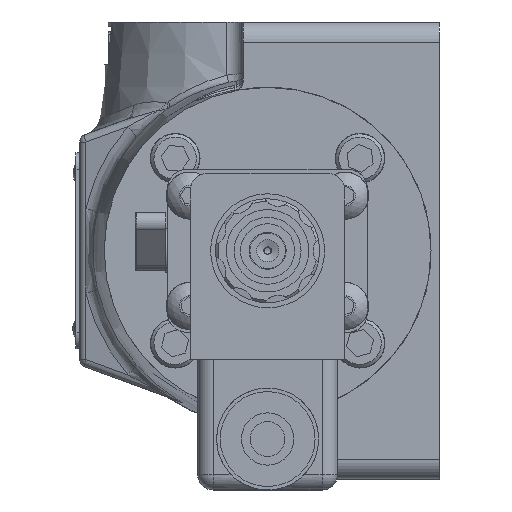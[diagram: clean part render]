
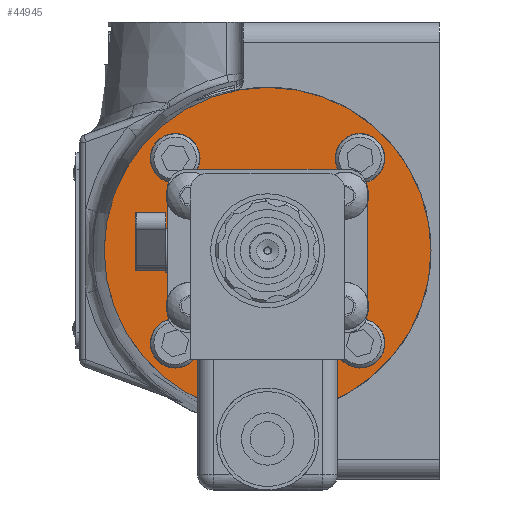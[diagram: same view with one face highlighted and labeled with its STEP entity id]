
A CAD part, left-side view. The second image highlights one B-rep face of the part: STEP entity #44945.
In plain terms, the highlighted planar face has unit normal (-1, 0, 0).
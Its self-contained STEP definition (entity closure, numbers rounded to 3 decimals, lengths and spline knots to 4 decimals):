
#1244=LINE('',#69975,#3724);
#1255=LINE('',#70006,#3735);
#1261=LINE('',#70024,#3741);
#1264=LINE('',#70040,#3744);
#3724=VECTOR('',#56136,2.35);
#3735=VECTOR('',#56159,2.7341);
#3741=VECTOR('',#56175,2.7341);
#3744=VECTOR('',#56196,2.35);
#7987=PLANE('',#49125);
#8821=FACE_BOUND('',#13885,.T.);
#10647=FACE_OUTER_BOUND('',#13884,.T.);
#13884=EDGE_LOOP('',(#34443));
#13885=EDGE_LOOP('',(#34444,#34445,#34446,#34447,#34448,#34449,#34450,#34451,
#34452,#34453,#34454,#34455));
#16396=CIRCLE('',#48237,0.4);
#16399=CIRCLE('',#48242,0.4);
#16401=CIRCLE('',#48246,0.4);
#16404=CIRCLE('',#48250,0.4);
#16784=CIRCLE('',#49064,3.175);
#16790=CIRCLE('',#49074,0.4826);
#16792=CIRCLE('',#49077,0.4826);
#16794=CIRCLE('',#49080,0.4826);
#16796=CIRCLE('',#49083,0.4826);
#19342=VERTEX_POINT('',#69971);
#19344=VERTEX_POINT('',#69974);
#19353=VERTEX_POINT('',#69993);
#19354=VERTEX_POINT('',#69995);
#19357=VERTEX_POINT('',#70003);
#19358=VERTEX_POINT('',#70005);
#19361=VERTEX_POINT('',#70013);
#19364=VERTEX_POINT('',#70021);
#19365=VERTEX_POINT('',#70023);
#19366=VERTEX_POINT('',#70028);
#19368=VERTEX_POINT('',#70034);
#19369=VERTEX_POINT('',#70036);
#19973=VERTEX_POINT('',#72370);
#24065=EDGE_CURVE('',#19344,#19342,#1244,.T.);
#24075=EDGE_CURVE('',#19353,#19354,#16396,.T.);
#24080=EDGE_CURVE('',#19358,#19357,#1255,.T.);
#24085=EDGE_CURVE('',#19361,#19342,#16399,.T.);
#24089=EDGE_CURVE('',#19365,#19364,#1261,.T.);
#24092=EDGE_CURVE('',#19344,#19366,#16401,.T.);
#24096=EDGE_CURVE('',#19368,#19369,#16404,.T.);
#24098=EDGE_CURVE('',#19368,#19354,#1264,.T.);
#25064=EDGE_CURVE('',#19973,#19973,#16784,.T.);
#25071=EDGE_CURVE('',#19361,#19365,#16790,.T.);
#25073=EDGE_CURVE('',#19357,#19366,#16792,.T.);
#25075=EDGE_CURVE('',#19353,#19358,#16794,.T.);
#25077=EDGE_CURVE('',#19364,#19369,#16796,.T.);
#34443=ORIENTED_EDGE('',*,*,#25064,.F.);
#34444=ORIENTED_EDGE('',*,*,#24092,.F.);
#34445=ORIENTED_EDGE('',*,*,#24065,.T.);
#34446=ORIENTED_EDGE('',*,*,#24085,.F.);
#34447=ORIENTED_EDGE('',*,*,#25071,.T.);
#34448=ORIENTED_EDGE('',*,*,#24089,.T.);
#34449=ORIENTED_EDGE('',*,*,#25077,.T.);
#34450=ORIENTED_EDGE('',*,*,#24096,.F.);
#34451=ORIENTED_EDGE('',*,*,#24098,.T.);
#34452=ORIENTED_EDGE('',*,*,#24075,.F.);
#34453=ORIENTED_EDGE('',*,*,#25075,.T.);
#34454=ORIENTED_EDGE('',*,*,#24080,.T.);
#34455=ORIENTED_EDGE('',*,*,#25073,.T.);
#44945=ADVANCED_FACE('',(#10647,#8821),#7987,.T.);
#48237=AXIS2_PLACEMENT_3D('',#69996,#56151,#56152);
#48242=AXIS2_PLACEMENT_3D('',#70015,#56168,#56169);
#48246=AXIS2_PLACEMENT_3D('',#70029,#56181,#56182);
#48250=AXIS2_PLACEMENT_3D('',#70037,#56190,#56191);
#49064=AXIS2_PLACEMENT_3D('',#72371,#58379,#58380);
#49074=AXIS2_PLACEMENT_3D('',#72387,#58400,#58401);
#49077=AXIS2_PLACEMENT_3D('',#72391,#58406,#58407);
#49080=AXIS2_PLACEMENT_3D('',#72395,#58412,#58413);
#49083=AXIS2_PLACEMENT_3D('',#72399,#58418,#58419);
#49125=AXIS2_PLACEMENT_3D('',#72695,#58509,#58510);
#56136=DIRECTION('',(0.,0.,1.));
#56151=DIRECTION('center_axis',(-1.,0.,0.));
#56152=DIRECTION('ref_axis',(0.,-0.707,-0.707));
#56159=DIRECTION('',(0.,1.,0.));
#56168=DIRECTION('center_axis',(-1.,0.,0.));
#56169=DIRECTION('ref_axis',(0.,0.707,0.707));
#56175=DIRECTION('',(0.,-1.,0.));
#56181=DIRECTION('center_axis',(-1.,0.,0.));
#56182=DIRECTION('ref_axis',(0.,0.707,-0.707));
#56190=DIRECTION('center_axis',(-1.,0.,0.));
#56191=DIRECTION('ref_axis',(0.,-0.707,0.707));
#56196=DIRECTION('',(0.,0.,-1.));
#58379=DIRECTION('center_axis',(1.,0.,0.));
#58380=DIRECTION('ref_axis',(0.,1.,0.));
#58400=DIRECTION('center_axis',(1.,0.,0.));
#58401=DIRECTION('ref_axis',(0.,-1.,0.));
#58406=DIRECTION('center_axis',(1.,0.,0.));
#58407=DIRECTION('ref_axis',(0.,0.,
1.));
#58412=DIRECTION('center_axis',(1.,0.,0.));
#58413=DIRECTION('ref_axis',(0.,1.,0.));
#58418=DIRECTION('center_axis',(1.,0.,0.));
#58419=DIRECTION('ref_axis',(0.,0.,
-1.));
#58509=DIRECTION('center_axis',(-1.,0.,0.));
#58510=DIRECTION('ref_axis',(0.,-1.,0.));
#69971=CARTESIAN_POINT('',(-6.9025,1.94,1.175));
#69974=CARTESIAN_POINT('',(-6.9025,1.94,-1.175));
#69975=CARTESIAN_POINT('',(-6.9025,1.94,-1.575));
#69993=CARTESIAN_POINT('',(-6.9025,-1.91,-1.3271));
#69995=CARTESIAN_POINT('',(-6.9025,-1.94,-1.175));
#69996=CARTESIAN_POINT('Origin',(-6.9025,-1.54,-1.175));
#70003=CARTESIAN_POINT('',(-6.9025,1.3671,-1.575));
#70005=CARTESIAN_POINT('',(-6.9025,-1.3671,-1.575));
#70006=CARTESIAN_POINT('',(-6.9025,-1.94,-1.575));
#70013=CARTESIAN_POINT('',(-6.9025,1.91,1.3271));
#70015=CARTESIAN_POINT('Origin',(-6.9025,1.54,1.175));
#70021=CARTESIAN_POINT('',(-6.9025,-1.3671,1.575));
#70023=CARTESIAN_POINT('',(-6.9025,1.3671,1.575));
#70024=CARTESIAN_POINT('',(-6.9025,1.94,1.575));
#70028=CARTESIAN_POINT('',(-6.9025,1.91,-1.3271));
#70029=CARTESIAN_POINT('Origin',(-6.9025,1.54,-1.175));
#70034=CARTESIAN_POINT('',(-6.9025,-1.94,1.175));
#70036=CARTESIAN_POINT('',(-6.9025,-1.91,1.3271));
#70037=CARTESIAN_POINT('Origin',(-6.9025,-1.54,1.175));
#70040=CARTESIAN_POINT('',(-6.9025,-1.94,1.575));
#72370=CARTESIAN_POINT('',(-6.9025,0.,3.175));
#72371=CARTESIAN_POINT('Origin',(-6.9025,0.,0.));
#72387=CARTESIAN_POINT('Origin',(-6.9025,1.7961,1.7961));
#72391=CARTESIAN_POINT('Origin',(-6.9025,1.7961,-1.7961));
#72395=CARTESIAN_POINT('Origin',(-6.9025,-1.7961,-1.7961));
#72399=CARTESIAN_POINT('Origin',(-6.9025,-1.7961,1.7961));
#72695=CARTESIAN_POINT('Origin',(-6.9025,0.,1.5875));
